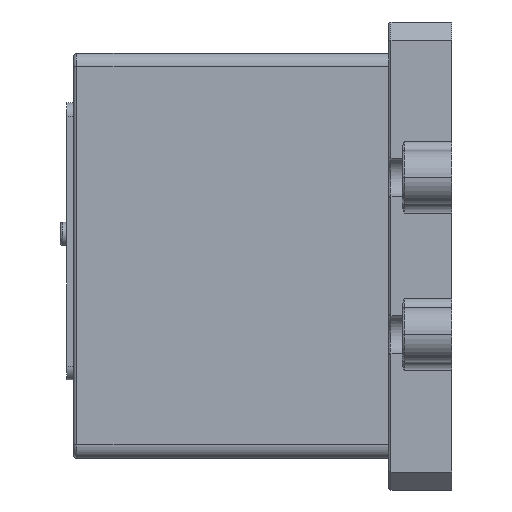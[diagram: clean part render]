
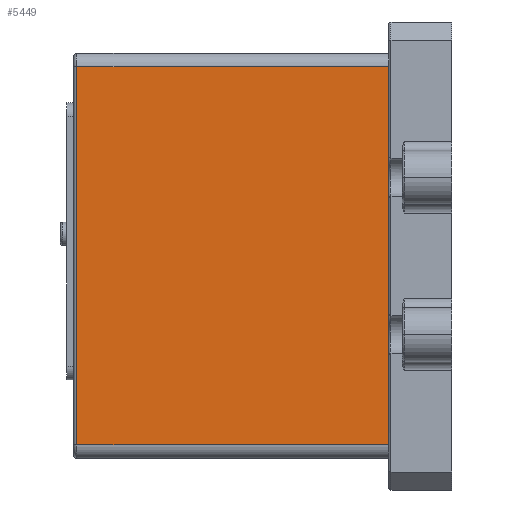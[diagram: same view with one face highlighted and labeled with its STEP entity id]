
A CAD part, left-side view. The second image highlights one B-rep face of the part: STEP entity #5449.
In plain terms, the highlighted planar face has unit normal (-1, 0, 0).
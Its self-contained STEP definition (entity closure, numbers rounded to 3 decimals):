
#3498=PLANE('',#42576);
#5449=ADVANCED_FACE('',(#7753),#3498,.F.);
#7753=FACE_OUTER_BOUND('',#9968,.T.);
#9968=EDGE_LOOP('',(#28401,#28402,#28403,#28404));
#14284=LINE('',#70120,#18795);
#14285=LINE('',#70123,#18796);
#14286=LINE('',#70125,#18797);
#14287=LINE('',#70127,#18798);
#18795=VECTOR('',#51471,1.);
#18796=VECTOR('',#51472,1.);
#18797=VECTOR('',#51473,1.);
#18798=VECTOR('',#51474,1.);
#28401=ORIENTED_EDGE('',*,*,#38918,.T.);
#28402=ORIENTED_EDGE('',*,*,#38919,.T.);
#28403=ORIENTED_EDGE('',*,*,#38920,.T.);
#28404=ORIENTED_EDGE('',*,*,#38921,.T.);
#33751=VERTEX_POINT('',#70121);
#33752=VERTEX_POINT('',#70122);
#33753=VERTEX_POINT('',#70124);
#33754=VERTEX_POINT('',#70126);
#38918=EDGE_CURVE('',#33751,#33752,#14284,.T.);
#38919=EDGE_CURVE('',#33752,#33753,#14285,.T.);
#38920=EDGE_CURVE('',#33753,#33754,#14286,.T.);
#38921=EDGE_CURVE('',#33754,#33751,#14287,.T.);
#42576=AXIS2_PLACEMENT_3D('',#70128,#51475,#51476);
#51471=DIRECTION('',(0.,1.,0.));
#51472=DIRECTION('',(0.,0.,-1.));
#51473=DIRECTION('',(0.,-1.,0.));
#51474=DIRECTION('',(0.,0.,1.));
#51475=DIRECTION('',(1.,0.,0.));
#51476=DIRECTION('',(0.,0.,-1.));
#70120=CARTESIAN_POINT('',(-44.5,70.,42.));
#70121=CARTESIAN_POINT('',(-44.5,0.,42.));
#70122=CARTESIAN_POINT('',(-44.5,69.3,42.));
#70123=CARTESIAN_POINT('',(-44.5,69.3,-42.));
#70124=CARTESIAN_POINT('',(-44.5,69.3,-42.));
#70125=CARTESIAN_POINT('',(-44.5,70.,-42.));
#70126=CARTESIAN_POINT('',(-44.5,0.,-42.));
#70127=CARTESIAN_POINT('',(-44.5,0.,-45.));
#70128=CARTESIAN_POINT('',(-44.5,70.,-45.));
